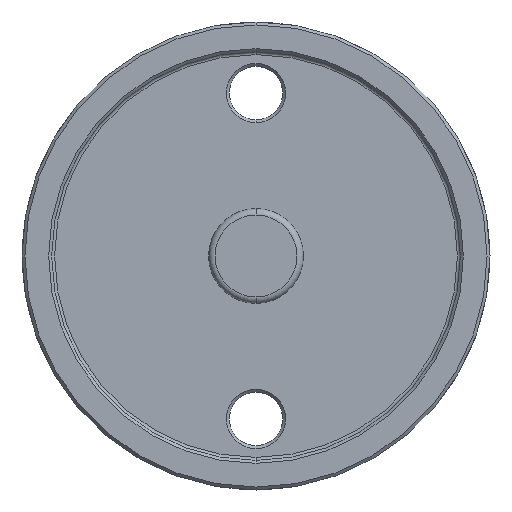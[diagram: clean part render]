
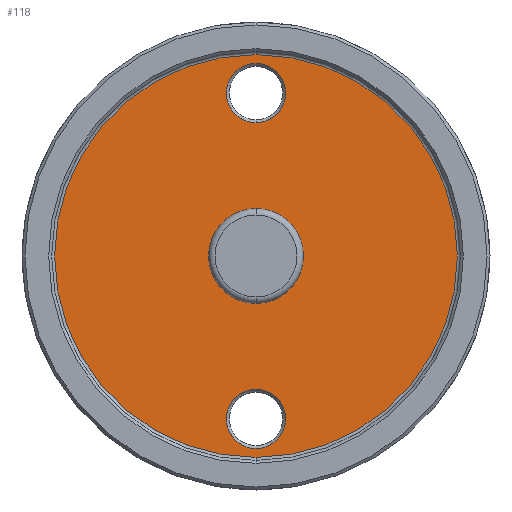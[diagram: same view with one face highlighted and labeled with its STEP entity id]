
A CAD part, front view. The second image highlights one B-rep face of the part: STEP entity #118.
In plain terms, the highlighted planar face has unit normal (0, -1, 0).
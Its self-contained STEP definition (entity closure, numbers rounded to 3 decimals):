
#118=ADVANCED_FACE('NONE',(#265,#266,#267,#268),#269,.T.);
#265=FACE_OUTER_BOUND('',#445,.T.);
#266=FACE_BOUND('',#446,.T.);
#267=FACE_BOUND('',#447,.T.);
#268=FACE_BOUND('',#448,.T.);
#269=PLANE('',#449);
#445=EDGE_LOOP('',(#709,#710));
#446=EDGE_LOOP('',(#711,#712));
#447=EDGE_LOOP('',(#713,#714));
#448=EDGE_LOOP('',(#715,#716));
#449=AXIS2_PLACEMENT_3D('',#717,#718,#719);
#709=ORIENTED_EDGE('',*,*,#1093,.T.);
#710=ORIENTED_EDGE('',*,*,#1041,.T.);
#711=ORIENTED_EDGE('',*,*,#1094,.T.);
#712=ORIENTED_EDGE('',*,*,#1095,.T.);
#713=ORIENTED_EDGE('',*,*,#1096,.T.);
#714=ORIENTED_EDGE('',*,*,#1097,.T.);
#715=ORIENTED_EDGE('',*,*,#1098,.T.);
#716=ORIENTED_EDGE('',*,*,#1050,.T.);
#717=CARTESIAN_POINT('',(5.,5.0,0.0));
#718=DIRECTION('',(0.0,-1.0,0.0));
#719=DIRECTION('',(0.0,0.0,-1.0));
#1041=EDGE_CURVE('NONE',#1231,#1232,#1233,.T.);
#1050=EDGE_CURVE('NONE',#1241,#1244,#1246,.T.);
#1093=EDGE_CURVE('NONE',#1232,#1231,#1311,.T.);
#1094=EDGE_CURVE('NONE',#1312,#1313,#1314,.T.);
#1095=EDGE_CURVE('NONE',#1313,#1312,#1315,.T.);
#1096=EDGE_CURVE('NONE',#1316,#1317,#1318,.T.);
#1097=EDGE_CURVE('NONE',#1317,#1316,#1319,.T.);
#1098=EDGE_CURVE('NONE',#1244,#1241,#1320,.T.);
#1231=VERTEX_POINT('NONE',#1474);
#1232=VERTEX_POINT('NONE',#1475);
#1233=CIRCLE('',#1476,34.0);
#1241=VERTEX_POINT('NONE',#1484);
#1244=VERTEX_POINT('NONE',#1487);
#1246=CIRCLE('',#1489,8.);
#1311=CIRCLE('',#1644,34.0);
#1312=VERTEX_POINT('NONE',#1645);
#1313=VERTEX_POINT('NONE',#1646);
#1314=CIRCLE('',#1647,5.0);
#1315=CIRCLE('',#1648,5.0);
#1316=VERTEX_POINT('NONE',#1649);
#1317=VERTEX_POINT('NONE',#1650);
#1318=CIRCLE('',#1651,5.0);
#1319=CIRCLE('',#1652,5.0);
#1320=CIRCLE('',#1653,8.);
#1474=CARTESIAN_POINT('',(39.5,5.0,34.0));
#1475=CARTESIAN_POINT('',(39.5,5.0,-34.0));
#1476=AXIS2_PLACEMENT_3D('',#1936,#1937,#1938);
#1484=CARTESIAN_POINT('',(39.5,5.0,8.));
#1487=CARTESIAN_POINT('',(39.5,5.0,-8.));
#1489=AXIS2_PLACEMENT_3D('',#1957,#1958,#1959);
#1644=AXIS2_PLACEMENT_3D('',#2035,#2036,#2037);
#1645=CARTESIAN_POINT('',(39.5,5.0,-32.5));
#1646=CARTESIAN_POINT('',(39.5,5.0,-22.5));
#1647=AXIS2_PLACEMENT_3D('',#2038,#2039,#2040);
#1648=AXIS2_PLACEMENT_3D('',#2041,#2042,#2043);
#1649=CARTESIAN_POINT('',(39.5,5.0,22.5));
#1650=CARTESIAN_POINT('',(39.5,5.0,32.5));
#1651=AXIS2_PLACEMENT_3D('',#2044,#2045,#2046);
#1652=AXIS2_PLACEMENT_3D('',#2047,#2048,#2049);
#1653=AXIS2_PLACEMENT_3D('',#2050,#2051,#2052);
#1936=CARTESIAN_POINT('',(39.5,5.0,0.0));
#1937=DIRECTION('',(0.0,-1.0,0.0));
#1938=DIRECTION('',(0.0,0.0,-1.0));
#1957=CARTESIAN_POINT('',(39.5,5.0,0.0));
#1958=DIRECTION('',(0.0,1.0,0.0));
#1959=DIRECTION('',(0.0,0.0,-1.0));
#2035=CARTESIAN_POINT('',(39.5,5.0,0.0));
#2036=DIRECTION('',(0.0,-1.0,0.0));
#2037=DIRECTION('',(0.0,0.0,-1.0));
#2038=CARTESIAN_POINT('',(39.5,5.0,-27.5));
#2039=DIRECTION('',(0.0,1.0,0.0));
#2040=DIRECTION('',(0.0,0.0,-1.0));
#2041=CARTESIAN_POINT('',(39.5,5.0,-27.5));
#2042=DIRECTION('',(0.0,1.0,0.0));
#2043=DIRECTION('',(0.0,0.0,-1.0));
#2044=CARTESIAN_POINT('',(39.5,5.0,27.5));
#2045=DIRECTION('',(0.0,1.0,0.0));
#2046=DIRECTION('',(0.0,0.0,-1.0));
#2047=CARTESIAN_POINT('',(39.5,5.0,27.5));
#2048=DIRECTION('',(0.0,1.0,0.0));
#2049=DIRECTION('',(0.0,0.0,-1.0));
#2050=CARTESIAN_POINT('',(39.5,5.0,0.0));
#2051=DIRECTION('',(0.0,1.0,0.0));
#2052=DIRECTION('',(0.0,0.0,-1.0));
